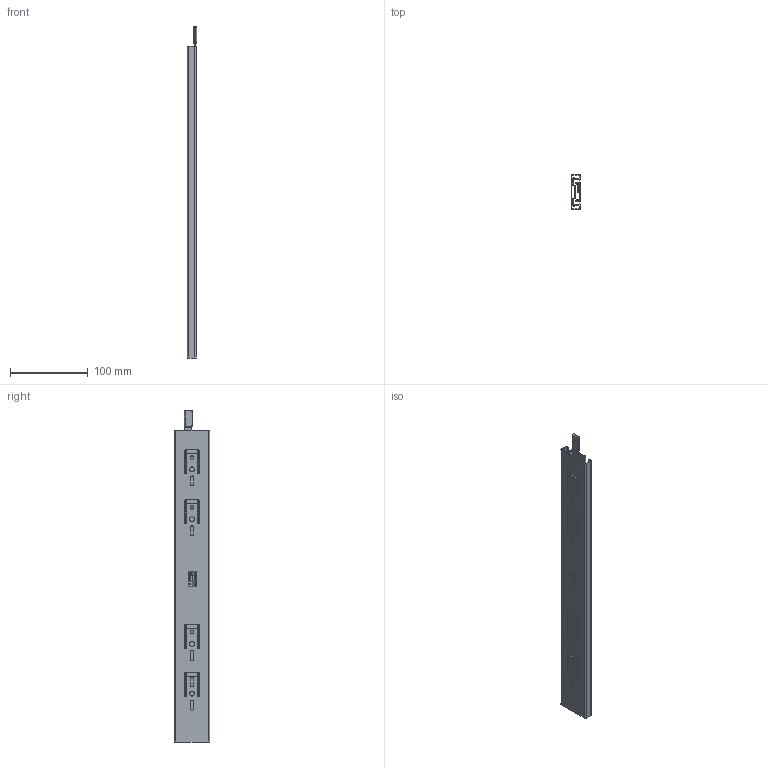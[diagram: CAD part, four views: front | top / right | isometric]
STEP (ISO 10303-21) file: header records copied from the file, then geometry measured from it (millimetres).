
FILE_DESCRIPTION (( 'STEP AP214' ), '1' );
FILE_NAME ('DSCHLD400MML-CLOSED.STEP', '2018-11-28T08:38:08', ( '' ), ( '' ), 'SwSTEP 2.0', 'SolidWorks 2017', '' );
FILE_SCHEMA (( 'AUTOMOTIVE_DESIGN' ));
Length unit declared in the file: millimetre
Products named in the file (5): DSCHLDL-1_400; DSCHLD400MML-CLOSED; DSCHLDL-2_400; DSCHLDL-4; DSCHLDL-3_400
Assembly tree (4 placements, depth 2):
  DSCHLD400MML-CLOSED
    DSCHLDL-3_400
    DSCHLDL-2_400
    DSCHLDL-1_400
    DSCHLDL-4
Bounding box: 12.71 x 45.5 x 426.1 mm (x, y, z)
Volume: 74963.6 mm3; surface area: 123158.5 mm2
Topology: 4 solids, 4 shells, 856 faces, 2330 edges, 1544 vertices
Faces by surface type: plane 488, bspline 237, cylinder 123, torus 4, sphere 4
Entity records: 28962 total; most frequent: CARTESIAN_POINT 8162, ORIENTED_EDGE 4652, DIRECTION 3356, EDGE_CURVE 2326, VECTOR 1600, LINE 1600, VERTEX_POINT 1544, EDGE_LOOP 976
